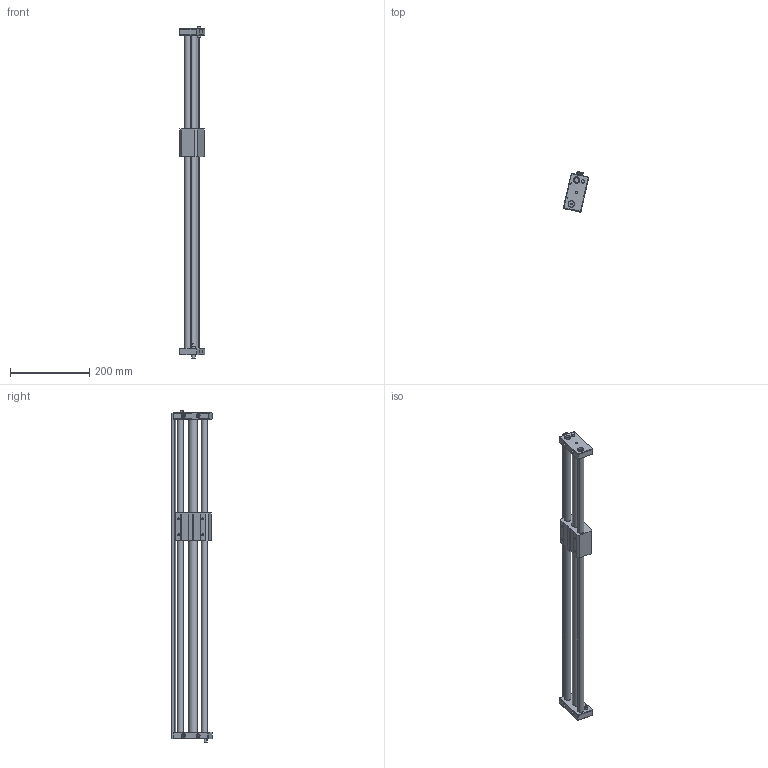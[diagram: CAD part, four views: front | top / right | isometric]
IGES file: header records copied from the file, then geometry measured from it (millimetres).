
Start section: SolidWorks IGES file using analytic representation for surfaces
Global section: file name: D:\Documents de SGA\Pieces 2D et 3D\GRU\iges\Assemblage9.IGS; native system: SolidWorks 2010; preprocessor: SolidWorks 2010; author: SGA; date: 111216.105420; units: millimetre
Bounding box: 63.73 x 101.28 x 837.66 mm (x, y, z)
Surface area: 261567.5 mm2 (no closed solid volume)
Topology: 0 solids, 0 shells, 220 faces, 4000 edges, 4000 vertices
Faces by surface type: revolution 110, bspline 110
